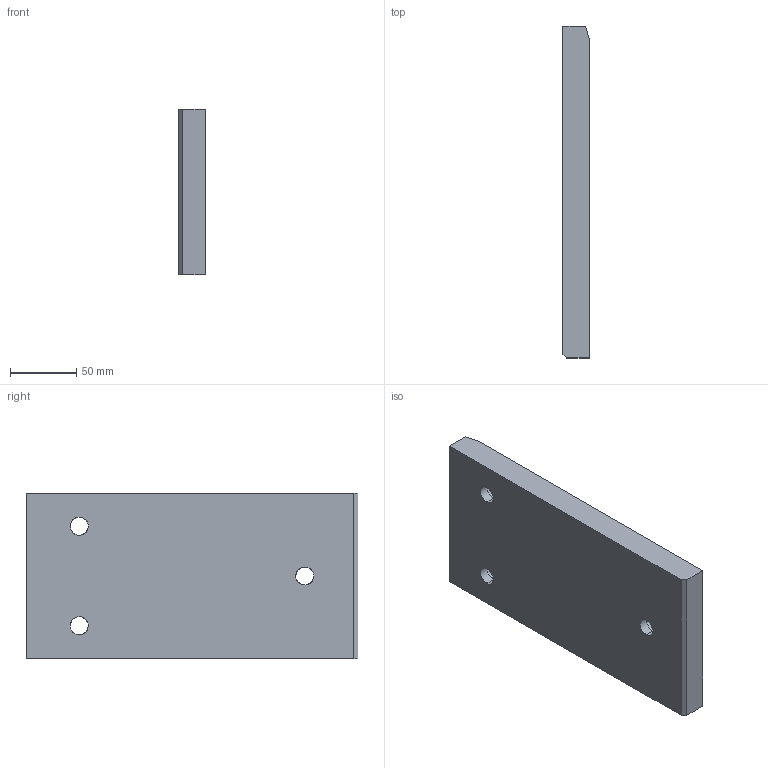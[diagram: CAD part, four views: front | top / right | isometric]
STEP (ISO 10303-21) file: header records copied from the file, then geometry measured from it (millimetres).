
FILE_DESCRIPTION(('CATIA V5 STEP Exchange'),'2;1');
FILE_NAME('C:\Users\borellobunino\Desktop\3D X SITO CF\A915\GSB_OILLESS_G22501125250\STEP-2.03\A915-125X250.stp','2019-07-14T14:00:59+00:00',('none'),('none'),'CATIA Version 5 Release 20 GA (IN-10)','CATIA V5 STEP AP203','none');
FILE_SCHEMA(('CONFIG_CONTROL_DESIGN'));
Length unit declared in the file: millimetre
Products named in the file (1): A915-125X250
Bounding box: 20 x 250 x 125 mm (x, y, z)
Volume: 607113.9 mm3; surface area: 79204.3 mm2
Topology: 1 solids, 1 shells, 30 faces, 99 edges, 74 vertices
Faces by surface type: cylinder 13, plane 11, torus 6
Entity records: 1437 total; most frequent: CARTESIAN_POINT 540, ORIENTED_EDGE 198, DIRECTION 135, EDGE_CURVE 99, AXIS2_PLACEMENT_3D 75, VERTEX_POINT 74, CIRCLE 44, EDGE_LOOP 39
